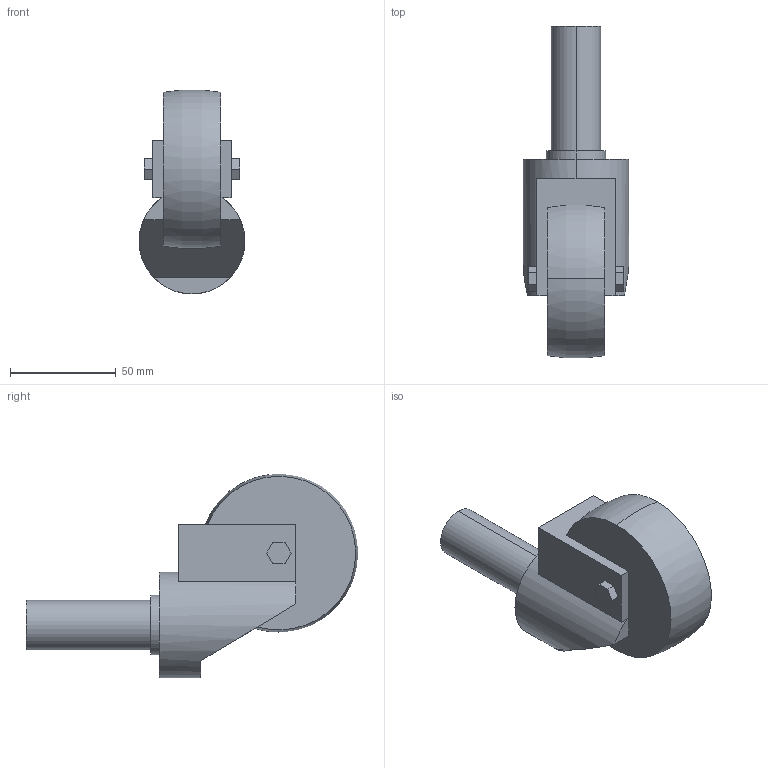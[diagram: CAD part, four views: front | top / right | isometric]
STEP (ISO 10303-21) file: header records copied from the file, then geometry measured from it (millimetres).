
FILE_DESCRIPTION (( 'STEP AP214' ), '1' );
FILE_NAME ('GES-75.step', '2024-02-15T04:38:19', ( 'catia' ), ( 'HP Inc.' ), 'SwSTEP 2.0', 'SolidWorks 2021', '' );
FILE_SCHEMA (( 'AUTOMOTIVE_DESIGN' ));
Length unit declared in the file: millimetre
Products named in the file (1): GES-75
Bounding box: 50 x 156.86 x 96.36 mm (x, y, z)
Volume: 236268.6 mm3; surface area: 29285.2 mm2
Topology: 1 solids, 1 shells, 38 faces, 96 edges, 64 vertices
Faces by surface type: plane 29, cylinder 6, torus 3
Entity records: 1196 total; most frequent: CARTESIAN_POINT 227, DIRECTION 194, ORIENTED_EDGE 192, EDGE_CURVE 96, LINE 68, VECTOR 68, VERTEX_POINT 64, AXIS2_PLACEMENT_3D 63
